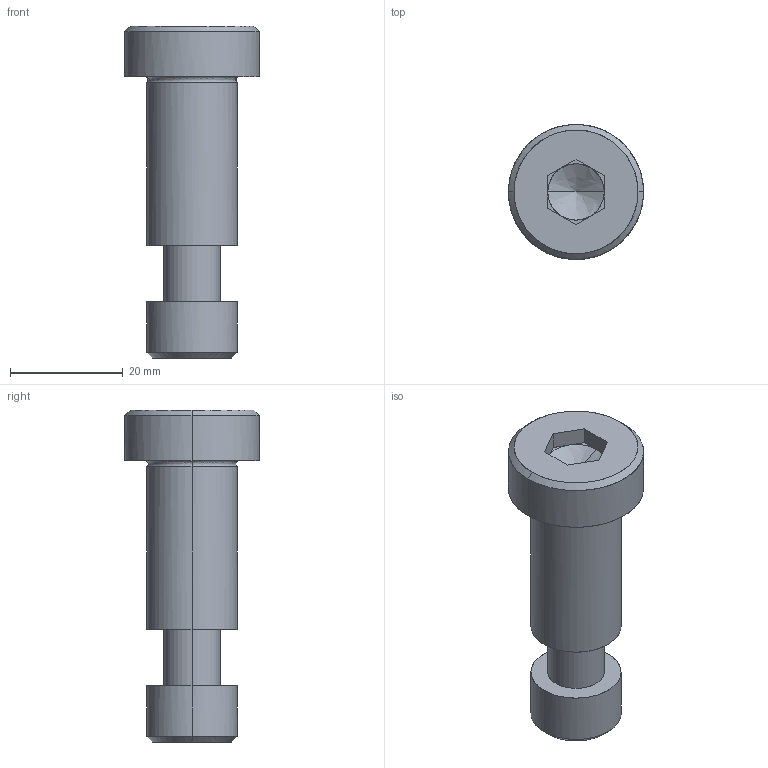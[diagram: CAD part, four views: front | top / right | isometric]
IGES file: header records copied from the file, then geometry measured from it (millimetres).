
Global section: file name: E:\UnigraphicsGraphicData\MISUMI_PRESS-PARTS\IGES\3d_sbtc16-30_05120_r00.igs; native system: NX V5.0; preprocessor: UGS NX IGES V5.0; author: MISUMI; date: 20110105.162446; units: millimetre
Bounding box: 24 x 24 x 59 mm (x, y, z)
Surface area: 5790.9 mm2 (no closed solid volume)
Topology: 0 solids, 0 shells, 52 faces, 286 edges, 282 vertices
Faces by surface type: bspline 52
